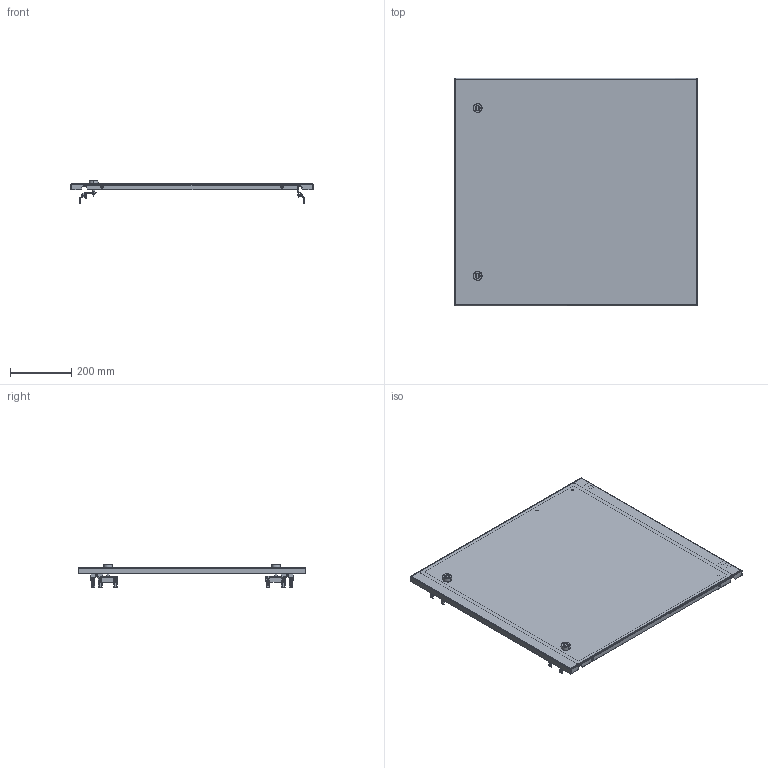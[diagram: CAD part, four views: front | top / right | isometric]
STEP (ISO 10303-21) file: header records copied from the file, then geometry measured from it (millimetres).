
FILE_DESCRIPTION(('CAx-IF Rec.Pracs.---Model Styling and Organization---1.2---2011-12-15','CAx-IF Rec.Pracs.---Geometric and Assembly Validation Properties---4.1---2014-06-16','CAx-IF Rec.Pracs.---PMI Polyline Presentation---2.0---2013-05-24'),'2;1');
FILE_NAME('R5CPMEM8750.stp','2021-05-06T03:58:12+03:00',(''),(''),'STEP Interface 4.4 by CT CoreTechnologie','3D_Evolution4.4 by CT CoreTechnologie','');
FILE_SCHEMA(('AUTOMOTIVE_DESIGN { 1 0 10303 214 1 1 1 1 }'));
Length unit declared in the file: millimetre
Products named in the file (18): R5CPMEM8750; AC00C745; AC00C485; M6 x 16-DIN 7991 ISR_thread; M6 x 16-DIN 7991 ISR_stright; MS737-1-1(1); MS737-1-1 stop_fixed; MS737-1-1 Z_ ªàëâ; RB.0687.00.00.1; MS737-1-1(2); RB.0116.00.00.2_-00; RB.0556.00.00.3 ÑÁ_-38; AC00C061_AC00C061; AC00C266; PF 7x14 R5PKEB_0750x0800; Ì6õ12-A5100231_straight; Ì6õ12-A5100231_thread; RB.0556.00.01.1_-38
Assembly tree (39 placements, depth 3):
  R5CPMEM8750
    AC00C745  x2
    AC00C485  x8
    M6 x 16-DIN 7991 ISR_thread  x4
    M6 x 16-DIN 7991 ISR_stright  x4
    MS737-1-1(1)
      MS737-1-1 stop_fixed
      MS737-1-1 Z_ ªàëâ
    RB.0687.00.00.1  x2
    MS737-1-1(2)
      MS737-1-1 stop_fixed
      MS737-1-1 Z_ ªàëâ
    RB.0116.00.00.2_-00  x2
    RB.0556.00.00.3 ÑÁ_-38
      AC00C061_AC00C061  x3
      AC00C266  x2
      PF 7x14 R5PKEB_0750x0800
      Ì6õ12-A5100231_straight
      Ì6õ12-A5100231_thread  x2
      RB.0556.00.01.1_-38
Bounding box: 794 x 745 x 77.95 mm (x, y, z)
Surface area: 1457310.7 mm2 (no closed solid volume)
Topology: 0 solids, 60 shells, 2316 faces, 6070 edges, 3856 vertices
Faces by surface type: bspline 868, cylinder 764, plane 684
Entity records: 35369 total; most frequent: CARTESIAN_POINT 11782, ORIENTED_EDGE 4942, DIRECTION 4586, EDGE_CURVE 2471, AXIS2_PLACEMENT_3D 1668, VERTEX_POINT 1596, VECTOR 1250, LINE 1250
